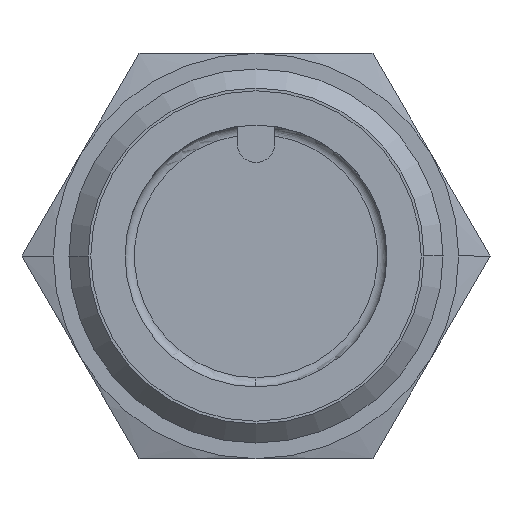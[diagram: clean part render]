
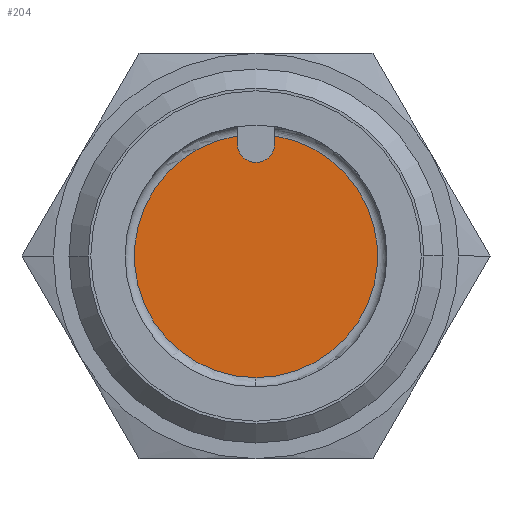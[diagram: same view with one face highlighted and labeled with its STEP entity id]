
A CAD part, left-side view. The second image highlights one B-rep face of the part: STEP entity #204.
In plain terms, the highlighted planar face has unit normal (-1, 0, 0).
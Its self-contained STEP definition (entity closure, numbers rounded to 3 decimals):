
#204 = ADVANCED_FACE( '', ( #352 ), #353, .F. );
#352 = FACE_OUTER_BOUND( '', #588, .T. );
#353 = PLANE( '', #589 );
#588 = EDGE_LOOP( '', ( #1003, #1004, #1005, #1006, #1007 ) );
#589 = AXIS2_PLACEMENT_3D( '', #1008, #1009, #1010 );
#1003 = ORIENTED_EDGE( '', *, *, #1671, .T. );
#1004 = ORIENTED_EDGE( '', *, *, #1668, .T. );
#1005 = ORIENTED_EDGE( '', *, *, #1666, .T. );
#1006 = ORIENTED_EDGE( '', *, *, #1615, .T. );
#1007 = ORIENTED_EDGE( '', *, *, #1673, .T. );
#1008 = CARTESIAN_POINT( '', ( 8.9, 1.95, 0. ) );
#1009 = DIRECTION( '', ( 1., 0., 0. ) );
#1010 = DIRECTION( '', ( 0., -1., 0. ) );
#1615 = EDGE_CURVE( '', #1893, #1891, #1894, .T. );
#1666 = EDGE_CURVE( '', #1976, #1893, #1977, .T. );
#1668 = EDGE_CURVE( '', #1979, #1976, #1980, .T. );
#1671 = EDGE_CURVE( '', #1984, #1979, #1985, .T. );
#1673 = EDGE_CURVE( '', #1891, #1984, #1987, .T. );
#1891 = VERTEX_POINT( '', #2297 );
#1893 = VERTEX_POINT( '', #2299 );
#1894 = CIRCLE( '', #2300, 3.9 );
#1976 = VERTEX_POINT( '', #2554 );
#1977 = LINE( '', #2555, #2556 );
#1979 = VERTEX_POINT( '', #2559 );
#1980 = CIRCLE( '', #2560, 0.6 );
#1984 = VERTEX_POINT( '', #2566 );
#1985 = LINE( '', #2567, #2568 );
#1987 = CIRCLE( '', #2579, 3.9 );
#2297 = CARTESIAN_POINT( '', ( 8.9, 0., -3.9 ) );
#2299 = CARTESIAN_POINT( '', ( 8.9, 0.6, 3.854 ) );
#2300 = AXIS2_PLACEMENT_3D( '', #3337, #3338, #3339 );
#2554 = CARTESIAN_POINT( '', ( 8.9, 0.6, 3.6 ) );
#2555 = CARTESIAN_POINT( '', ( 8.9, 0.6, 2.3 ) );
#2556 = VECTOR( '', #3405, 1. );
#2559 = CARTESIAN_POINT( '', ( 8.9, -0.6, 3.6 ) );
#2560 = AXIS2_PLACEMENT_3D( '', #3407, #3408, #3409 );
#2566 = CARTESIAN_POINT( '', ( 8.9, -0.6, 3.854 ) );
#2567 = CARTESIAN_POINT( '', ( 8.9, -0.6, 1.8 ) );
#2568 = VECTOR( '', #3412, 1. );
#2579 = AXIS2_PLACEMENT_3D( '', #3413, #3414, #3415 );
#3337 = CARTESIAN_POINT( '', ( 8.9, 0., 0. ) );
#3338 = DIRECTION( '', ( -1., 0., 0. ) );
#3339 = DIRECTION( '', ( 0., 1., 0. ) );
#3405 = DIRECTION( '', ( 0., 0., 1. ) );
#3407 = CARTESIAN_POINT( '', ( 8.9, 0., 3.6 ) );
#3408 = DIRECTION( '', ( 1., 0., 0. ) );
#3409 = DIRECTION( '', ( 0., -1., 0. ) );
#3412 = DIRECTION( '', ( 0., 0., -1. ) );
#3413 = CARTESIAN_POINT( '', ( 8.9, 0., 0. ) );
#3414 = DIRECTION( '', ( -1., 0., 0. ) );
#3415 = DIRECTION( '', ( 0., 1., 0. ) );
